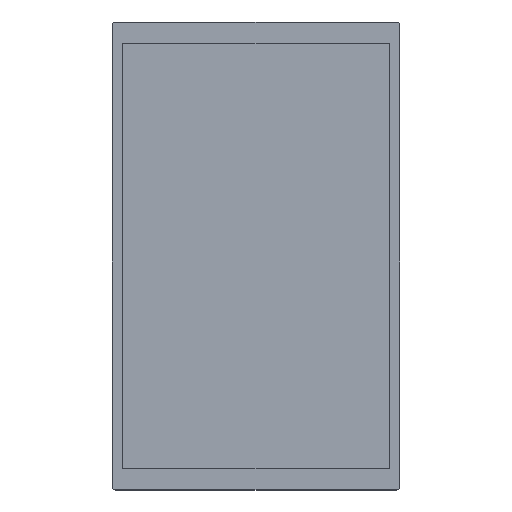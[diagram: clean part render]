
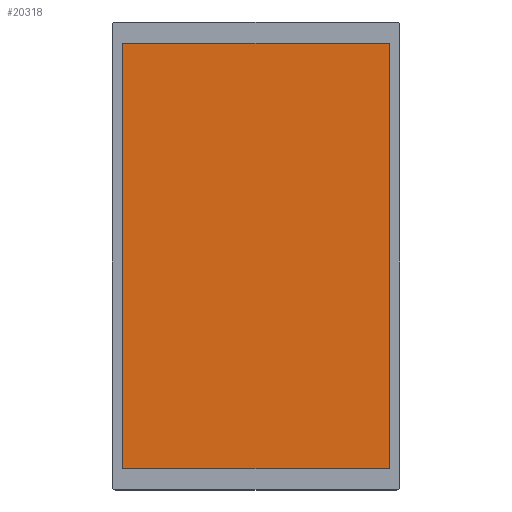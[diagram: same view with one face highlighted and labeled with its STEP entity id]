
A CAD part, top view. The second image highlights one B-rep face of the part: STEP entity #20318.
In plain terms, the highlighted planar face has unit normal (0, 0, 1).
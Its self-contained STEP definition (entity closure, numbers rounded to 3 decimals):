
#4929=DIRECTION('',(1.,0.,0.));
#4930=VECTOR('',#4929,135.96);
#4931=CARTESIAN_POINT('',(-67.98,108.59,4.75));
#4932=LINE('',#4931,#4930);
#4937=DIRECTION('',(0.,-1.,0.));
#4938=VECTOR('',#4937,217.18);
#4939=CARTESIAN_POINT('',(67.98,108.59,4.75));
#4940=LINE('',#4939,#4938);
#4945=DIRECTION('',(-1.,0.,0.));
#4946=VECTOR('',#4945,135.96);
#4947=CARTESIAN_POINT('',(67.98,-108.59,4.75));
#4948=LINE('',#4947,#4946);
#4953=DIRECTION('',(0.,1.,0.));
#4954=VECTOR('',#4953,217.18);
#4955=CARTESIAN_POINT('',(-67.98,-108.59,4.75));
#4956=LINE('',#4955,#4954);
#9941=CARTESIAN_POINT('',(-67.98,108.59,4.75));
#9942=CARTESIAN_POINT('',(67.98,108.59,4.75));
#9943=VERTEX_POINT('',#9941);
#9944=VERTEX_POINT('',#9942);
#9945=CARTESIAN_POINT('',(67.98,-108.59,4.75));
#9946=VERTEX_POINT('',#9945);
#9947=CARTESIAN_POINT('',(-67.98,-108.59,4.75));
#9948=VERTEX_POINT('',#9947);
#20304=CARTESIAN_POINT('',(0.,0.,4.75));
#20305=DIRECTION('',(0.,0.,-1.));
#20306=DIRECTION('',(-1.,0.,0.));
#20307=AXIS2_PLACEMENT_3D('',#20304,#20305,#20306);
#20308=PLANE('',#20307);
#20309=ORIENTED_EDGE('',*,*,#20287,.T.);
#20311=ORIENTED_EDGE('',*,*,#20310,.T.);
#20313=ORIENTED_EDGE('',*,*,#20312,.T.);
#20315=ORIENTED_EDGE('',*,*,#20314,.T.);
#20316=EDGE_LOOP('',(#20309,#20311,#20313,#20315));
#20317=FACE_OUTER_BOUND('',#20316,.F.);
#20318=ADVANCED_FACE('',(#20317),#20308,.F.);
#20287=EDGE_CURVE('',#9943,#9944,#4932,.T.);
#20310=EDGE_CURVE('',#9944,#9946,#4940,.T.);
#20312=EDGE_CURVE('',#9946,#9948,#4948,.T.);
#20314=EDGE_CURVE('',#9948,#9943,#4956,.T.);
